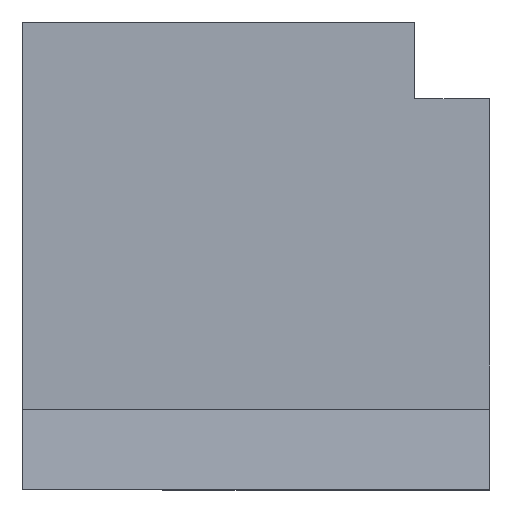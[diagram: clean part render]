
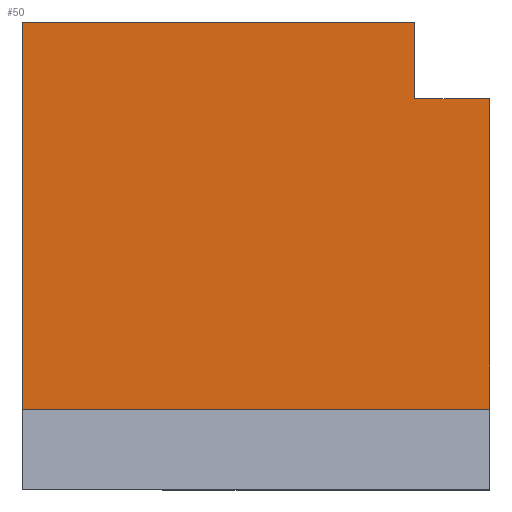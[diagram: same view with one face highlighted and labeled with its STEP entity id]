
A CAD part, top view. The second image highlights one B-rep face of the part: STEP entity #50.
In plain terms, the highlighted planar face has unit normal (0, 0, 1).
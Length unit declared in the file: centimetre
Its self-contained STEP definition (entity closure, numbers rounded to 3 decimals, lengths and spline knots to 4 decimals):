
#8 = CARTESIAN_POINT ( 'NONE',  ( 0., 171.4836, 1000. ) ) ;
#23 = VERTEX_POINT ( 'NONE', #803 ) ;
#50 = ADVANCED_FACE ( 'NONE', ( #796 ), #120, .T. ) ;
#57 = EDGE_LOOP ( 'NONE', ( #252, #365, #404, #133, #508, #618 ) ) ;
#58 = AXIS2_PLACEMENT_3D ( 'NONE', #126, #750, #172 ) ;
#79 = VECTOR ( 'NONE', #458, 100. ) ;
#80 = CARTESIAN_POINT ( 'NONE',  ( 1000., 1000., 1000. ) ) ;
#105 = VECTOR ( 'NONE', #197, 100. ) ;
#120 = PLANE ( 'NONE',  #58 ) ;
#126 = CARTESIAN_POINT ( 'NONE',  ( 0., 0., 1000. ) ) ;
#133 = ORIENTED_EDGE ( 'NONE', *, *, #781, .F. ) ;
#138 = VERTEX_POINT ( 'NONE', #392 ) ;
#151 = VERTEX_POINT ( 'NONE', #210 ) ;
#168 = CARTESIAN_POINT ( 'NONE',  ( 1000., 836.0914, 1000. ) ) ;
#172 = DIRECTION ( 'NONE',  ( 1., 0., 0. ) ) ;
#195 = LINE ( 'NONE', #253, #278 ) ;
#197 = DIRECTION ( 'NONE',  ( -1., 0., 0. ) ) ;
#210 = CARTESIAN_POINT ( 'NONE',  ( 839.5373, 1000., 1000. ) ) ;
#218 = VECTOR ( 'NONE', #408, 100. ) ;
#223 = VERTEX_POINT ( 'NONE', #563 ) ;
#229 = EDGE_CURVE ( 'NONE', #151, #23, #195, .T. ) ;
#248 = DIRECTION ( 'NONE',  ( -1., 0., 0. ) ) ;
#252 = ORIENTED_EDGE ( 'NONE', *, *, #777, .T. ) ;
#253 = CARTESIAN_POINT ( 'NONE',  ( 0., 1000., 1000. ) ) ;
#275 = DIRECTION ( 'NONE',  ( 0., 1., 0. ) ) ;
#278 = VECTOR ( 'NONE', #248, 100. ) ;
#281 = CARTESIAN_POINT ( 'NONE',  ( 839.5373, 836.0914, 1000. ) ) ;
#297 = LINE ( 'NONE', #281, #218 ) ;
#332 = VECTOR ( 'NONE', #562, 100. ) ;
#365 = ORIENTED_EDGE ( 'NONE', *, *, #229, .T. ) ;
#373 = LINE ( 'NONE', #623, #332 ) ;
#374 = EDGE_CURVE ( 'NONE', #23, #138, #603, .T. ) ;
#392 = CARTESIAN_POINT ( 'NONE',  ( 0., 171.4836, 1000. ) ) ;
#404 = ORIENTED_EDGE ( 'NONE', *, *, #374, .T. ) ;
#408 = DIRECTION ( 'NONE',  ( -1., 0., 0. ) ) ;
#445 = EDGE_CURVE ( 'NONE', #648, #223, #297, .T. ) ;
#458 = DIRECTION ( 'NONE',  ( 0., -1., 0. ) ) ;
#463 = EDGE_CURVE ( 'NONE', #667, #648, #466, .T. ) ;
#466 = LINE ( 'NONE', #80, #628 ) ;
#480 = CARTESIAN_POINT ( 'NONE',  ( 1000., 171.4836, 1000. ) ) ;
#508 = ORIENTED_EDGE ( 'NONE', *, *, #463, .T. ) ;
#562 = DIRECTION ( 'NONE',  ( 0., 1., 0. ) ) ;
#563 = CARTESIAN_POINT ( 'NONE',  ( 839.5373, 836.0914, 1000. ) ) ;
#603 = LINE ( 'NONE', #727, #79 ) ;
#618 = ORIENTED_EDGE ( 'NONE', *, *, #445, .T. ) ;
#623 = CARTESIAN_POINT ( 'NONE',  ( 839.5373, 836.0914, 1000. ) ) ;
#625 = LINE ( 'NONE', #8, #105 ) ;
#628 = VECTOR ( 'NONE', #275, 100. ) ;
#648 = VERTEX_POINT ( 'NONE', #168 ) ;
#667 = VERTEX_POINT ( 'NONE', #480 ) ;
#727 = CARTESIAN_POINT ( 'NONE',  ( 0., 1000., 1000. ) ) ;
#750 = DIRECTION ( 'NONE',  ( 0., 0., 1. ) ) ;
#777 = EDGE_CURVE ( 'NONE', #223, #151, #373, .T. ) ;
#781 = EDGE_CURVE ( 'NONE', #667, #138, #625, .T. ) ;
#796 = FACE_OUTER_BOUND ( 'NONE', #57, .T. ) ;
#803 = CARTESIAN_POINT ( 'NONE',  ( 0., 1000., 1000. ) ) ;
